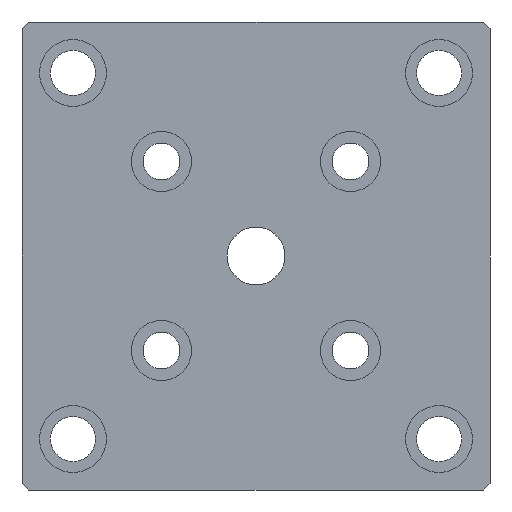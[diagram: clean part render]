
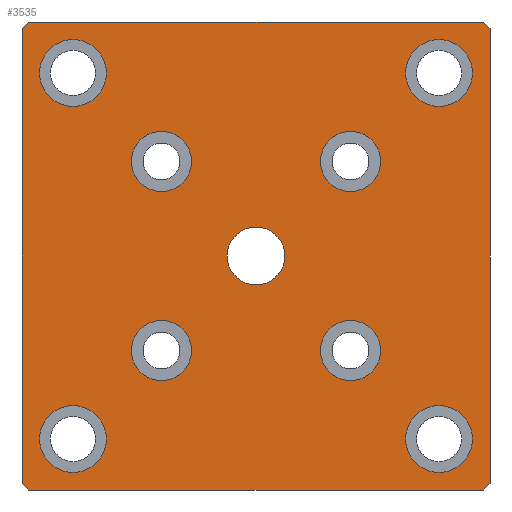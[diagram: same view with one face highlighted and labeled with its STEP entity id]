
A CAD part, front view. The second image highlights one B-rep face of the part: STEP entity #3535.
In plain terms, the highlighted planar face has unit normal (0, -1, 0).
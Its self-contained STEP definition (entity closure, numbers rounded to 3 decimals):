
#45=CIRCLE('',#3647,10.);
#46=CIRCLE('',#3648,10.);
#50=CIRCLE('',#3655,10.);
#51=CIRCLE('',#3656,10.);
#55=CIRCLE('',#3663,10.);
#56=CIRCLE('',#3664,10.);
#60=CIRCLE('',#3671,10.);
#61=CIRCLE('',#3672,10.);
#65=CIRCLE('',#3679,9.);
#66=CIRCLE('',#3680,9.);
#70=CIRCLE('',#3687,9.);
#71=CIRCLE('',#3688,9.);
#75=CIRCLE('',#3695,9.);
#76=CIRCLE('',#3696,9.);
#80=CIRCLE('',#3703,9.);
#81=CIRCLE('',#3704,9.);
#82=CIRCLE('',#3714,8.647);
#115=FACE_BOUND('',#628,.T.);
#116=FACE_BOUND('',#629,.T.);
#117=FACE_BOUND('',#630,.T.);
#118=FACE_BOUND('',#631,.T.);
#119=FACE_BOUND('',#632,.T.);
#120=FACE_BOUND('',#633,.T.);
#121=FACE_BOUND('',#634,.T.);
#122=FACE_BOUND('',#635,.T.);
#123=FACE_BOUND('',#636,.T.);
#217=PLANE('',#3717);
#406=FACE_OUTER_BOUND('',#627,.T.);
#627=EDGE_LOOP('',(#3244,#3245,#3246,#3247,#3248,#3249,#3250,#3251));
#628=EDGE_LOOP('',(#3252,#3253));
#629=EDGE_LOOP('',(#3254,#3255));
#630=EDGE_LOOP('',(#3256,#3257));
#631=EDGE_LOOP('',(#3258,#3259));
#632=EDGE_LOOP('',(#3260,#3261));
#633=EDGE_LOOP('',(#3262,#3263));
#634=EDGE_LOOP('',(#3264,#3265));
#635=EDGE_LOOP('',(#3266,#3267));
#636=EDGE_LOOP('',(#3268));
#923=LINE('',#6370,#1225);
#926=LINE('',#6375,#1228);
#928=LINE('',#6381,#1230);
#930=LINE('',#6385,#1232);
#932=LINE('',#6389,#1234);
#935=LINE('',#6394,#1237);
#937=LINE('',#6400,#1239);
#938=LINE('',#6402,#1240);
#1225=VECTOR('',#4308,10.);
#1228=VECTOR('',#4313,10.);
#1230=VECTOR('',#4319,10.);
#1232=VECTOR('',#4323,10.);
#1234=VECTOR('',#4327,10.);
#1237=VECTOR('',#4332,10.);
#1239=VECTOR('',#4340,10.);
#1240=VECTOR('',#4343,10.);
#1696=VERTEX_POINT('',#6254);
#1697=VERTEX_POINT('',#6255);
#1701=VERTEX_POINT('',#6269);
#1702=VERTEX_POINT('',#6270);
#1706=VERTEX_POINT('',#6284);
#1707=VERTEX_POINT('',#6285);
#1711=VERTEX_POINT('',#6299);
#1712=VERTEX_POINT('',#6300);
#1716=VERTEX_POINT('',#6314);
#1717=VERTEX_POINT('',#6315);
#1721=VERTEX_POINT('',#6329);
#1722=VERTEX_POINT('',#6330);
#1726=VERTEX_POINT('',#6344);
#1727=VERTEX_POINT('',#6345);
#1731=VERTEX_POINT('',#6359);
#1732=VERTEX_POINT('',#6360);
#1733=VERTEX_POINT('',#6367);
#1734=VERTEX_POINT('',#6369);
#1735=VERTEX_POINT('',#6373);
#1736=VERTEX_POINT('',#6378);
#1737=VERTEX_POINT('',#6380);
#1738=VERTEX_POINT('',#6384);
#1739=VERTEX_POINT('',#6388);
#1740=VERTEX_POINT('',#6392);
#1741=VERTEX_POINT('',#6396);
#2180=EDGE_CURVE('',#1696,#1697,#45,.T.);
#2181=EDGE_CURVE('',#1697,#1696,#46,.T.);
#2187=EDGE_CURVE('',#1701,#1702,#50,.T.);
#2188=EDGE_CURVE('',#1702,#1701,#51,.T.);
#2194=EDGE_CURVE('',#1706,#1707,#55,.T.);
#2195=EDGE_CURVE('',#1707,#1706,#56,.T.);
#2201=EDGE_CURVE('',#1711,#1712,#60,.T.);
#2202=EDGE_CURVE('',#1712,#1711,#61,.T.);
#2208=EDGE_CURVE('',#1716,#1717,#65,.T.);
#2209=EDGE_CURVE('',#1717,#1716,#66,.T.);
#2215=EDGE_CURVE('',#1721,#1722,#70,.T.);
#2216=EDGE_CURVE('',#1722,#1721,#71,.T.);
#2222=EDGE_CURVE('',#1726,#1727,#75,.T.);
#2223=EDGE_CURVE('',#1727,#1726,#76,.T.);
#2229=EDGE_CURVE('',#1731,#1732,#80,.T.);
#2230=EDGE_CURVE('',#1732,#1731,#81,.T.);
#2234=EDGE_CURVE('',#1733,#1734,#923,.T.);
#2237=EDGE_CURVE('',#1733,#1735,#926,.T.);
#2239=EDGE_CURVE('',#1736,#1737,#928,.T.);
#2241=EDGE_CURVE('',#1738,#1737,#930,.T.);
#2243=EDGE_CURVE('',#1738,#1739,#932,.T.);
#2246=EDGE_CURVE('',#1740,#1735,#935,.T.);
#2248=EDGE_CURVE('',#1741,#1741,#82,.T.);
#2249=EDGE_CURVE('',#1740,#1739,#937,.T.);
#2250=EDGE_CURVE('',#1736,#1734,#938,.T.);
#3244=ORIENTED_EDGE('',*,*,#2234,.F.);
#3245=ORIENTED_EDGE('',*,*,#2237,.T.);
#3246=ORIENTED_EDGE('',*,*,#2246,.F.);
#3247=ORIENTED_EDGE('',*,*,#2249,.T.);
#3248=ORIENTED_EDGE('',*,*,#2243,.F.);
#3249=ORIENTED_EDGE('',*,*,#2241,.T.);
#3250=ORIENTED_EDGE('',*,*,#2239,.F.);
#3251=ORIENTED_EDGE('',*,*,#2250,.T.);
#3252=ORIENTED_EDGE('',*,*,#2180,.T.);
#3253=ORIENTED_EDGE('',*,*,#2181,.T.);
#3254=ORIENTED_EDGE('',*,*,#2187,.T.);
#3255=ORIENTED_EDGE('',*,*,#2188,.T.);
#3256=ORIENTED_EDGE('',*,*,#2194,.T.);
#3257=ORIENTED_EDGE('',*,*,#2195,.T.);
#3258=ORIENTED_EDGE('',*,*,#2201,.T.);
#3259=ORIENTED_EDGE('',*,*,#2202,.T.);
#3260=ORIENTED_EDGE('',*,*,#2208,.T.);
#3261=ORIENTED_EDGE('',*,*,#2209,.T.);
#3262=ORIENTED_EDGE('',*,*,#2215,.T.);
#3263=ORIENTED_EDGE('',*,*,#2216,.T.);
#3264=ORIENTED_EDGE('',*,*,#2222,.T.);
#3265=ORIENTED_EDGE('',*,*,#2223,.T.);
#3266=ORIENTED_EDGE('',*,*,#2229,.T.);
#3267=ORIENTED_EDGE('',*,*,#2230,.T.);
#3268=ORIENTED_EDGE('',*,*,#2248,.T.);
#3535=ADVANCED_FACE('',(#406,#115,#116,#117,#118,#119,#120,#121,#122,#123),
#217,.F.);
#3647=AXIS2_PLACEMENT_3D('',#6256,#4171,#4172);
#3648=AXIS2_PLACEMENT_3D('',#6257,#4173,#4174);
#3655=AXIS2_PLACEMENT_3D('',#6271,#4189,#4190);
#3656=AXIS2_PLACEMENT_3D('',#6272,#4191,#4192);
#3663=AXIS2_PLACEMENT_3D('',#6286,#4207,#4208);
#3664=AXIS2_PLACEMENT_3D('',#6287,#4209,#4210);
#3671=AXIS2_PLACEMENT_3D('',#6301,#4225,#4226);
#3672=AXIS2_PLACEMENT_3D('',#6302,#4227,#4228);
#3679=AXIS2_PLACEMENT_3D('',#6316,#4243,#4244);
#3680=AXIS2_PLACEMENT_3D('',#6317,#4245,#4246);
#3687=AXIS2_PLACEMENT_3D('',#6331,#4261,#4262);
#3688=AXIS2_PLACEMENT_3D('',#6332,#4263,#4264);
#3695=AXIS2_PLACEMENT_3D('',#6346,#4279,#4280);
#3696=AXIS2_PLACEMENT_3D('',#6347,#4281,#4282);
#3703=AXIS2_PLACEMENT_3D('',#6361,#4297,#4298);
#3704=AXIS2_PLACEMENT_3D('',#6362,#4299,#4300);
#3714=AXIS2_PLACEMENT_3D('',#6398,#4336,#4337);
#3717=AXIS2_PLACEMENT_3D('',#6403,#4344,#4345);
#4171=DIRECTION('center_axis',(0.,1.,0.));
#4172=DIRECTION('ref_axis',(0.,0.,-1.));
#4173=DIRECTION('center_axis',(0.,1.,0.));
#4174=DIRECTION('ref_axis',(0.,0.,-1.));
#4189=DIRECTION('center_axis',(0.,1.,0.));
#4190=DIRECTION('ref_axis',(1.,0.,0.));
#4191=DIRECTION('center_axis',(0.,1.,0.));
#4192=DIRECTION('ref_axis',(1.,0.,0.));
#4207=DIRECTION('center_axis',(0.,1.,0.));
#4208=DIRECTION('ref_axis',(0.,0.,1.));
#4209=DIRECTION('center_axis',(0.,1.,0.));
#4210=DIRECTION('ref_axis',(0.,0.,1.));
#4225=DIRECTION('center_axis',(0.,1.,0.));
#4226=DIRECTION('ref_axis',(-1.,0.,0.));
#4227=DIRECTION('center_axis',(0.,1.,0.));
#4228=DIRECTION('ref_axis',(-1.,0.,0.));
#4243=DIRECTION('center_axis',(0.,1.,0.));
#4244=DIRECTION('ref_axis',(0.,0.,-1.));
#4245=DIRECTION('center_axis',(0.,1.,0.));
#4246=DIRECTION('ref_axis',(0.,0.,-1.));
#4261=DIRECTION('center_axis',(0.,1.,0.));
#4262=DIRECTION('ref_axis',(1.,0.,0.));
#4263=DIRECTION('center_axis',(0.,1.,0.));
#4264=DIRECTION('ref_axis',(1.,0.,0.));
#4279=DIRECTION('center_axis',(0.,1.,0.));
#4280=DIRECTION('ref_axis',(0.,0.,1.));
#4281=DIRECTION('center_axis',(0.,1.,0.));
#4282=DIRECTION('ref_axis',(0.,0.,1.));
#4297=DIRECTION('center_axis',(0.,1.,0.));
#4298=DIRECTION('ref_axis',(-1.,0.,0.));
#4299=DIRECTION('center_axis',(0.,1.,0.));
#4300=DIRECTION('ref_axis',(-1.,0.,0.));
#4308=DIRECTION('',(0.707,0.,-0.707));
#4313=DIRECTION('',(-1.,0.,0.));
#4319=DIRECTION('',(-0.707,0.,-0.707));
#4323=DIRECTION('',(1.,0.,0.));
#4327=DIRECTION('',(-0.707,0.,0.707));
#4332=DIRECTION('',(0.707,0.,0.707));
#4336=DIRECTION('center_axis',(0.,1.,0.));
#4337=DIRECTION('ref_axis',(1.,0.,0.));
#4340=DIRECTION('',(0.,0.,-1.));
#4343=DIRECTION('',(0.,0.,1.));
#4344=DIRECTION('center_axis',(0.,1.,0.));
#4345=DIRECTION('ref_axis',(0.,0.,1.));
#6254=CARTESIAN_POINT('',(-15.25,0.,-25.25));
#6255=CARTESIAN_POINT('',(-15.25,0.,-5.25));
#6256=CARTESIAN_POINT('Origin',(-15.25,0.,-15.25));
#6257=CARTESIAN_POINT('Origin',(-15.25,0.,-15.25));
#6269=CARTESIAN_POINT('',(-114.75,0.,-15.25));
#6270=CARTESIAN_POINT('',(-134.75,0.,-15.25));
#6271=CARTESIAN_POINT('Origin',(-124.75,0.,-15.25));
#6272=CARTESIAN_POINT('Origin',(-124.75,0.,-15.25));
#6284=CARTESIAN_POINT('',(-124.75,0.,-114.75));
#6285=CARTESIAN_POINT('',(-124.75,0.,-134.75));
#6286=CARTESIAN_POINT('Origin',(-124.75,0.,-124.75));
#6287=CARTESIAN_POINT('Origin',(-124.75,0.,-124.75));
#6299=CARTESIAN_POINT('',(-25.25,0.,-124.75));
#6300=CARTESIAN_POINT('',(-5.25,0.,-124.75));
#6301=CARTESIAN_POINT('Origin',(-15.25,0.,-124.75));
#6302=CARTESIAN_POINT('Origin',(-15.25,0.,-124.75));
#6314=CARTESIAN_POINT('',(-41.716,0.,-50.716));
#6315=CARTESIAN_POINT('',(-41.716,0.,-32.716));
#6316=CARTESIAN_POINT('Origin',(-41.716,0.,-41.716));
#6317=CARTESIAN_POINT('Origin',(-41.716,0.,-41.716));
#6329=CARTESIAN_POINT('',(-89.284,0.,-41.716));
#6330=CARTESIAN_POINT('',(-107.284,0.,-41.716));
#6331=CARTESIAN_POINT('Origin',(-98.284,0.,-41.716));
#6332=CARTESIAN_POINT('Origin',(-98.284,0.,-41.716));
#6344=CARTESIAN_POINT('',(-98.284,0.,-89.284));
#6345=CARTESIAN_POINT('',(-98.284,0.,-107.284));
#6346=CARTESIAN_POINT('Origin',(-98.284,0.,-98.284));
#6347=CARTESIAN_POINT('Origin',(-98.284,0.,-98.284));
#6359=CARTESIAN_POINT('',(-50.716,0.,-98.284));
#6360=CARTESIAN_POINT('',(-32.716,0.,-98.284));
#6361=CARTESIAN_POINT('Origin',(-41.716,0.,-98.284));
#6362=CARTESIAN_POINT('Origin',(-41.716,0.,-98.284));
#6367=CARTESIAN_POINT('',(-2.,0.,0.));
#6369=CARTESIAN_POINT('',(0.,0.,-2.));
#6370=CARTESIAN_POINT('',(-1.,0.,-1.));
#6373=CARTESIAN_POINT('',(-138.,0.,0.));
#6375=CARTESIAN_POINT('',(0.,0.,0.));
#6378=CARTESIAN_POINT('',(0.,0.,-138.));
#6380=CARTESIAN_POINT('',(-2.,0.,-140.));
#6381=CARTESIAN_POINT('',(-1.,0.,-139.));
#6384=CARTESIAN_POINT('',(-138.,0.,-140.));
#6385=CARTESIAN_POINT('',(-140.,0.,-140.));
#6388=CARTESIAN_POINT('',(-140.,0.,-138.));
#6389=CARTESIAN_POINT('',(-139.,0.,-139.));
#6392=CARTESIAN_POINT('',(-140.,0.,-2.));
#6394=CARTESIAN_POINT('',(-139.,0.,-1.));
#6396=CARTESIAN_POINT('',(-78.647,0.,-70.));
#6398=CARTESIAN_POINT('Origin',(-70.,0.,-70.));
#6400=CARTESIAN_POINT('',(-140.,0.,0.));
#6402=CARTESIAN_POINT('',(0.,0.,-140.));
#6403=CARTESIAN_POINT('Origin',(-70.,0.,-70.));
